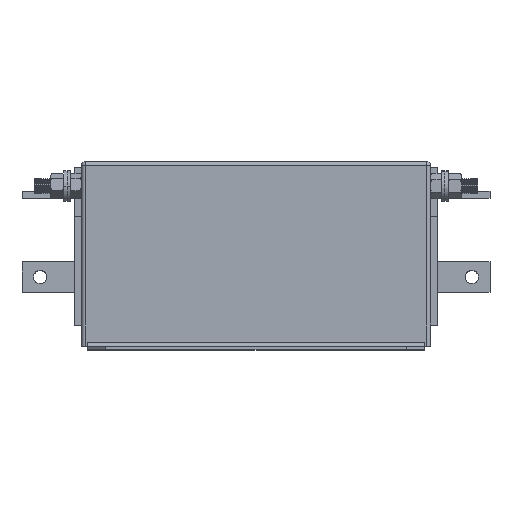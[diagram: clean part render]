
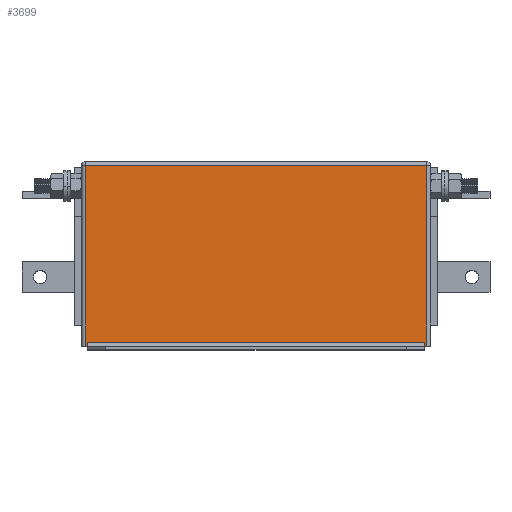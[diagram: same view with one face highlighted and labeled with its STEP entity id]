
A CAD part, top view. The second image highlights one B-rep face of the part: STEP entity #3699.
In plain terms, the highlighted planar face has unit normal (0, 0, 1).
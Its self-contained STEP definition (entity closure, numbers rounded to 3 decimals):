
#51 = EDGE_CURVE ( 'NONE', #2119, #4930, #8870, .T. ) ;
#141 = EDGE_CURVE ( 'NONE', #459, #8844, #7076, .T. ) ;
#312 = EDGE_CURVE ( 'NONE', #8884, #2119, #3211, .T. ) ;
#337 = AXIS2_PLACEMENT_3D ( 'NONE', #4230, #2165, #1499 ) ;
#401 = CARTESIAN_POINT ( 'NONE',  ( 283., -3., 0. ) ) ;
#459 = VERTEX_POINT ( 'NONE', #1244 ) ;
#743 = EDGE_CURVE ( 'NONE', #3153, #7461, #2977, .T. ) ;
#789 = VERTEX_POINT ( 'NONE', #2913 ) ;
#1164 = CARTESIAN_POINT ( 'NONE',  ( 285., 149., 0. ) ) ;
#1177 = CARTESIAN_POINT ( 'NONE',  ( 0., 0., 0. ) ) ;
#1219 = LINE ( 'NONE', #2998, #8088 ) ;
#1244 = CARTESIAN_POINT ( 'NONE',  ( 285., 0., 0. ) ) ;
#1250 = EDGE_CURVE ( 'NONE', #789, #8884, #1219, .T. ) ;
#1252 = EDGE_LOOP ( 'NONE', ( #4980, #3149, #9155, #4418, #8549, #6888, #5839, #2144 ) ) ;
#1447 = CARTESIAN_POINT ( 'NONE',  ( 5., 3., 0. ) ) ;
#1499 = DIRECTION ( 'NONE',  ( -1., 0., 0. ) ) ;
#1661 = EDGE_CURVE ( 'NONE', #4930, #3153, #6160, .T. ) ;
#1764 = VECTOR ( 'NONE', #3272, 1000. ) ;
#1985 = VECTOR ( 'NONE', #5201, 1000. ) ;
#2119 = VERTEX_POINT ( 'NONE', #4690 ) ;
#2144 = ORIENTED_EDGE ( 'NONE', *, *, #51, .T. ) ;
#2165 = DIRECTION ( 'NONE',  ( 0., 0., -1. ) ) ;
#2321 = VECTOR ( 'NONE', #4924, 1000. ) ;
#2375 = EDGE_CURVE ( 'NONE', #8844, #789, #7502, .T. ) ;
#2411 = CARTESIAN_POINT ( 'NONE',  ( 283., 0., 0. ) ) ;
#2913 = CARTESIAN_POINT ( 'NONE',  ( 3., 149., 0. ) ) ;
#2977 = LINE ( 'NONE', #401, #7975 ) ;
#2998 = CARTESIAN_POINT ( 'NONE',  ( 3., 152., 0. ) ) ;
#3149 = ORIENTED_EDGE ( 'NONE', *, *, #743, .T. ) ;
#3153 = VERTEX_POINT ( 'NONE', #7218 ) ;
#3211 = LINE ( 'NONE', #6697, #9086 ) ;
#3272 = DIRECTION ( 'NONE',  ( 1., 0., 0. ) ) ;
#3511 = CARTESIAN_POINT ( 'NONE',  ( 0., 149., 0. ) ) ;
#3606 = CARTESIAN_POINT ( 'NONE',  ( 5., -3., 0. ) ) ;
#3699 = ADVANCED_FACE ( 'NONE', ( #7488 ), #5616, .F. ) ;
#4230 = CARTESIAN_POINT ( 'NONE',  ( 0., 152., 0. ) ) ;
#4418 = ORIENTED_EDGE ( 'NONE', *, *, #141, .T. ) ;
#4690 = CARTESIAN_POINT ( 'NONE',  ( 5., 0., 0. ) ) ;
#4924 = DIRECTION ( 'NONE',  ( 0., 1., 0. ) ) ;
#4930 = VERTEX_POINT ( 'NONE', #1447 ) ;
#4980 = ORIENTED_EDGE ( 'NONE', *, *, #1661, .T. ) ;
#5201 = DIRECTION ( 'NONE',  ( 1., 0., 0. ) ) ;
#5303 = CARTESIAN_POINT ( 'NONE',  ( 3., 0., 0. ) ) ;
#5522 = VECTOR ( 'NONE', #7880, 1000. ) ;
#5616 = PLANE ( 'NONE',  #337 ) ;
#5678 = DIRECTION ( 'NONE',  ( 0., -1., 0. ) ) ;
#5835 = CARTESIAN_POINT ( 'NONE',  ( 283., 3., 0. ) ) ;
#5839 = ORIENTED_EDGE ( 'NONE', *, *, #312, .T. ) ;
#6160 = LINE ( 'NONE', #5835, #1985 ) ;
#6697 = CARTESIAN_POINT ( 'NONE',  ( 0., 0., 0. ) ) ;
#6888 = ORIENTED_EDGE ( 'NONE', *, *, #1250, .T. ) ;
#6943 = VECTOR ( 'NONE', #9127, 1000. ) ;
#7076 = LINE ( 'NONE', #7908, #5522 ) ;
#7218 = CARTESIAN_POINT ( 'NONE',  ( 283., 3., 0. ) ) ;
#7461 = VERTEX_POINT ( 'NONE', #2411 ) ;
#7488 = FACE_OUTER_BOUND ( 'NONE', #1252, .T. ) ;
#7502 = LINE ( 'NONE', #3511, #6943 ) ;
#7880 = DIRECTION ( 'NONE',  ( 0., 1., 0. ) ) ;
#7908 = CARTESIAN_POINT ( 'NONE',  ( 285., 152., 0. ) ) ;
#7975 = VECTOR ( 'NONE', #8133, 1000. ) ;
#8088 = VECTOR ( 'NONE', #5678, 1000. ) ;
#8133 = DIRECTION ( 'NONE',  ( 0., -1., 0. ) ) ;
#8156 = DIRECTION ( 'NONE',  ( 1., 0., 0. ) ) ;
#8273 = EDGE_CURVE ( 'NONE', #7461, #459, #8379, .T. ) ;
#8379 = LINE ( 'NONE', #1177, #1764 ) ;
#8549 = ORIENTED_EDGE ( 'NONE', *, *, #2375, .T. ) ;
#8844 = VERTEX_POINT ( 'NONE', #1164 ) ;
#8870 = LINE ( 'NONE', #3606, #2321 ) ;
#8884 = VERTEX_POINT ( 'NONE', #5303 ) ;
#9086 = VECTOR ( 'NONE', #8156, 1000. ) ;
#9127 = DIRECTION ( 'NONE',  ( -1., 0., 0. ) ) ;
#9155 = ORIENTED_EDGE ( 'NONE', *, *, #8273, .T. ) ;
